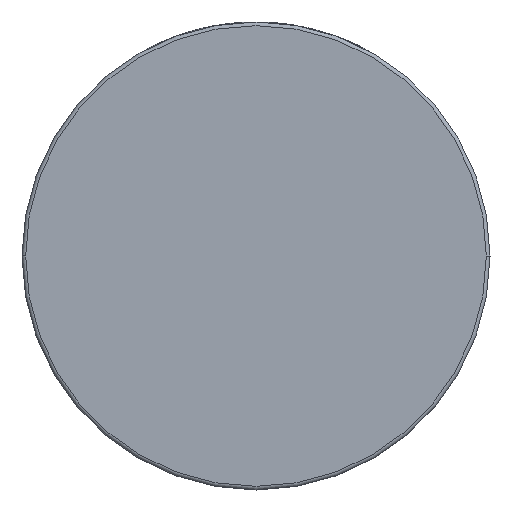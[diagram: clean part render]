
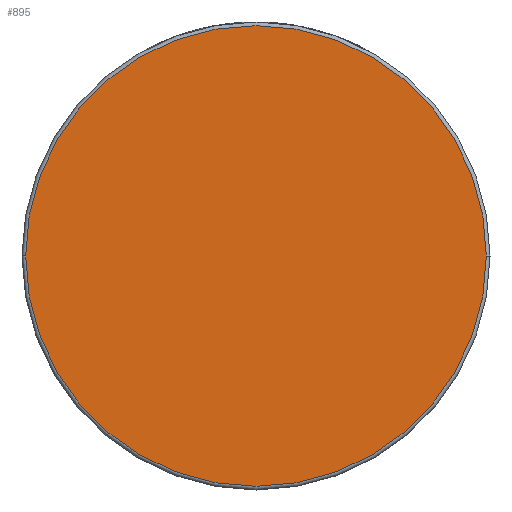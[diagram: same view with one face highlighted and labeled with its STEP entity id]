
A CAD part, front view. The second image highlights one B-rep face of the part: STEP entity #895.
In plain terms, the highlighted planar face has unit normal (0, -1, 0).
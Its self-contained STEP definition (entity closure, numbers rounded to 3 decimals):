
#52 = DIRECTION ( 'NONE',  ( 1., 0., 0. ) ) ;
#172 = AXIS2_PLACEMENT_3D ( 'NONE', #3685, #940, #4443 ) ;
#254 = AXIS2_PLACEMENT_3D ( 'NONE', #726, #1463, #52 ) ;
#348 = EDGE_LOOP ( 'NONE', ( #1932, #1470 ) ) ;
#606 = CIRCLE ( 'NONE', #1483, 63. ) ;
#726 = CARTESIAN_POINT ( 'NONE',  ( 64., -33., 0. ) ) ;
#895 = ADVANCED_FACE ( 'NONE', ( #3483 ), #4217, .T. ) ;
#940 = DIRECTION ( 'NONE',  ( 0., -1., 0. ) ) ;
#1463 = DIRECTION ( 'NONE',  ( 0., -1., 0. ) ) ;
#1470 = ORIENTED_EDGE ( 'NONE', *, *, #2462, .T. ) ;
#1483 = AXIS2_PLACEMENT_3D ( 'NONE', #2703, #3738, #3097 ) ;
#1560 = EDGE_CURVE ( 'NONE', #2129, #2280, #606, .T. ) ;
#1932 = ORIENTED_EDGE ( 'NONE', *, *, #1560, .T. ) ;
#2098 = CARTESIAN_POINT ( 'NONE',  ( 63., -33., 0. ) ) ;
#2129 = VERTEX_POINT ( 'NONE', #2098 ) ;
#2280 = VERTEX_POINT ( 'NONE', #2936 ) ;
#2462 = EDGE_CURVE ( 'NONE', #2280, #2129, #3382, .T. ) ;
#2703 = CARTESIAN_POINT ( 'NONE',  ( 0., -33., 0. ) ) ;
#2936 = CARTESIAN_POINT ( 'NONE',  ( -63., -33., 0. ) ) ;
#3097 = DIRECTION ( 'NONE',  ( 1., 0., 0. ) ) ;
#3382 = CIRCLE ( 'NONE', #172, 63. ) ;
#3483 = FACE_OUTER_BOUND ( 'NONE', #348, .T. ) ;
#3685 = CARTESIAN_POINT ( 'NONE',  ( 0., -33., 0. ) ) ;
#3738 = DIRECTION ( 'NONE',  ( 0., -1., 0. ) ) ;
#4217 = PLANE ( 'NONE',  #254 ) ;
#4443 = DIRECTION ( 'NONE',  ( 1., 0., 0. ) ) ;
